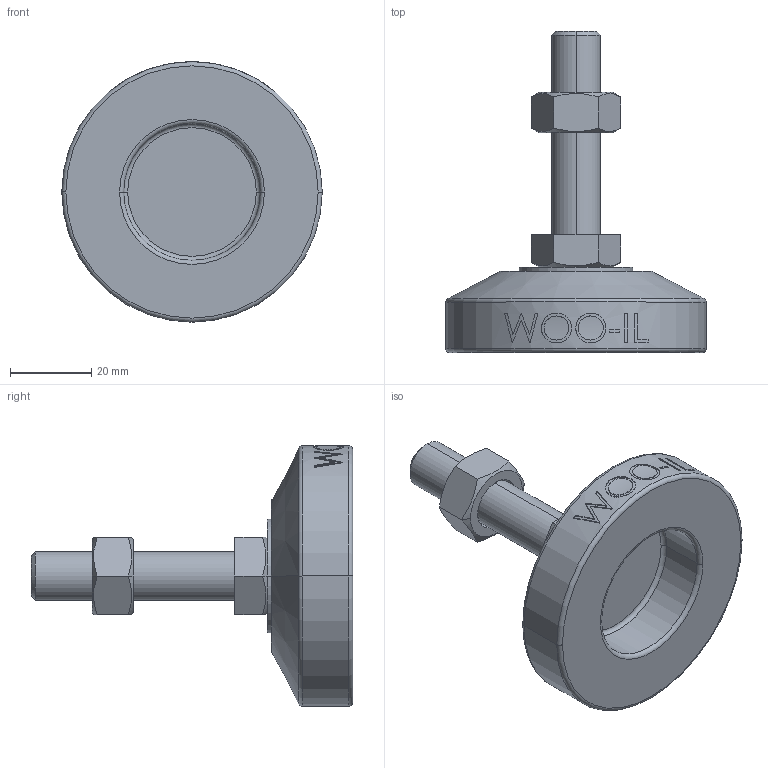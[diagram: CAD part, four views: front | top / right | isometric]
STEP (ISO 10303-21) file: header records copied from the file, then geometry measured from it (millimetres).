
FILE_DESCRIPTION (( 'STEP AP214' ), '1' );
FILE_NAME ('MFZ64-M12-50.step', '2021-01-15T07:05:50', ( '' ), ( '' ), 'SwSTEP 2.0', 'SolidWorks 2019', '' );
FILE_SCHEMA (( 'AUTOMOTIVE_DESIGN' ));
Length unit declared in the file: millimetre
Products named in the file (2): MFZ64-M12-50
Bounding box: 64 x 79 x 64 mm (x, y, z)
Volume: 55700.6 mm3; surface area: 14893.8 mm2
Topology: 3 solids, 3 shells, 106 faces, 243 edges, 154 vertices
Faces by surface type: plane 48, cylinder 18, bspline 16, cone 14, torus 10
Entity records: 4520 total; most frequent: CARTESIAN_POINT 2177, ORIENTED_EDGE 486, DIRECTION 439, EDGE_CURVE 243, AXIS2_PLACEMENT_3D 170, VERTEX_POINT 154, EDGE_LOOP 119, ADVANCED_FACE 106
